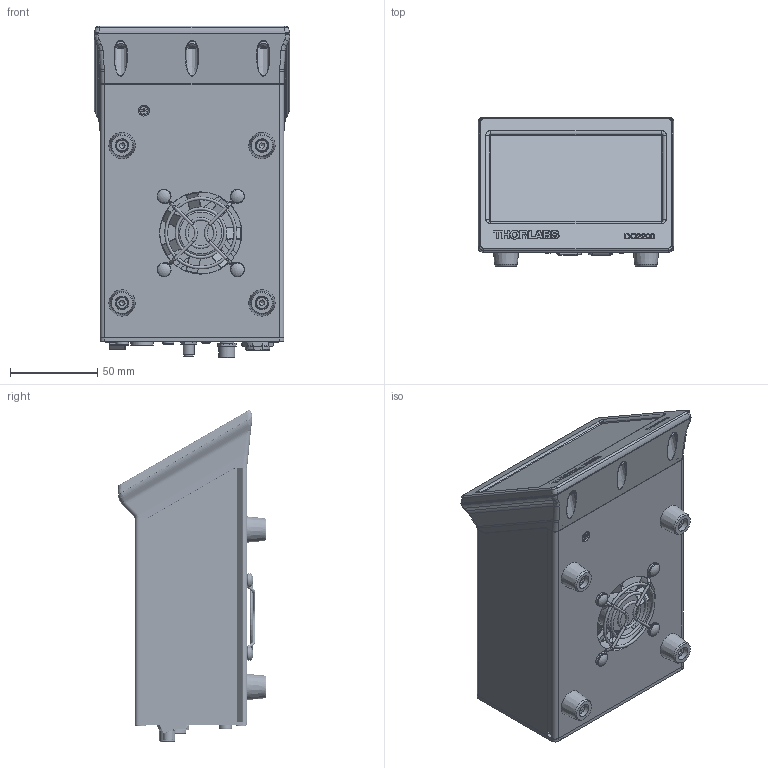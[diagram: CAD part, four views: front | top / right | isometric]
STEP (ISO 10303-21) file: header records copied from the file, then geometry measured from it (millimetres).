
FILE_DESCRIPTION (( 'STEP AP214' ), '1' );
FILE_NAME ('23.01.27_DC2200 Web.STEP', '2023-01-27T10:54:07', ( '' ), ( '' ), 'SwSTEP 2.0', 'SolidWorks 2022', '' );
FILE_SCHEMA (( 'AUTOMOTIVE_DESIGN' ));
Length unit declared in the file: millimetre
Products named in the file (1): 23.01.27_DC2200 Web
Bounding box: 111.98 x 84.99 x 189.68 mm (x, y, z)
Volume: 228026.9 mm3; surface area: 206084.3 mm2
Topology: 40 solids, 40 shells, 4537 faces, 11990 edges, 7735 vertices
Faces by surface type: plane 2328, cylinder 1119, bspline 852, cone 176, torus 53, sphere 9
Full cylindrical faces by diameter (mm): 0.8 x1, 0.9 x13, 1 x21, 1.05 x4, 1.1 x2, 1.2 x1, 1.27 x1, 1.4 x2, 1.5 x12, 1.6 x24, 1.63 x4, 2 x2, 2.013 x1, 2.15 x2, 2.23 x2, 2.4 x16, 2.5 x1, 2.6 x1, 3 x7, 3.1 x1, 3.2 x4, 3.3 x8, 3.4 x1, 3.45 x1, 3.5 x4, 3.9 x2, 4 x7, 4.2 x8, 4.22 x1, 4.25 x1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
Entity records: 244711 total; most frequent: CARTESIAN_POINT 91030, ORIENTED_EDGE 22994, DIRECTION 18297, EDGE_CURVE 11497, VERTEX_POINT 7629, LINE 6937, VECTOR 6937, AXIS2_PLACEMENT_3D 5680
